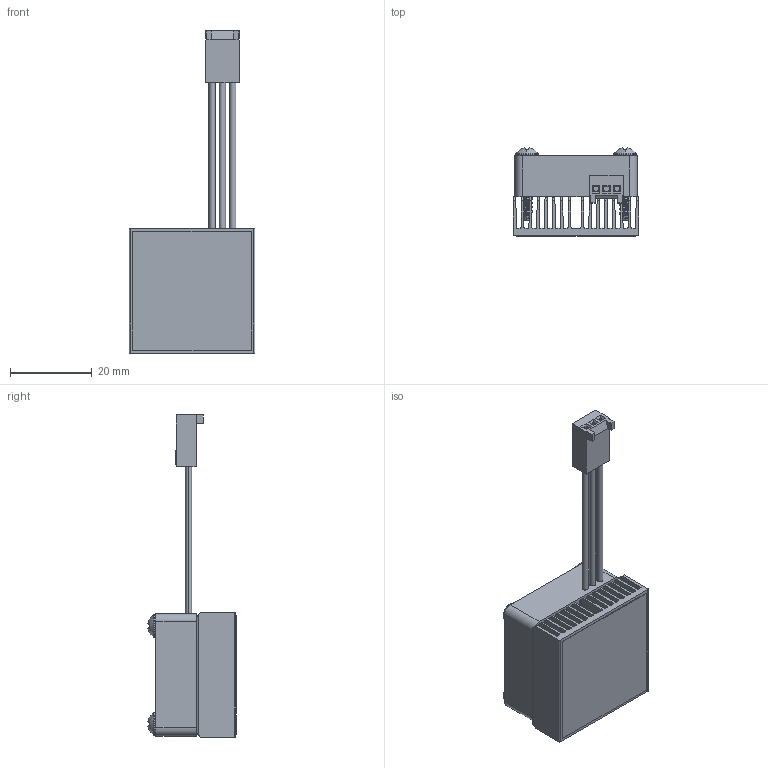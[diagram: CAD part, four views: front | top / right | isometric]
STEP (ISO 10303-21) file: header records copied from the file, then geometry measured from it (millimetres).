
FILE_DESCRIPTION (( 'STEP AP214' ), '1' );
FILE_NAME ('FI31-1.4.STEP', '2023-03-07T19:11:14', ( '' ), ( '' ), 'SwSTEP 2.0', 'SolidWorks 2020', '' );
FILE_SCHEMA (( 'AUTOMOTIVE_DESIGN' ));
Length unit declared in the file: millimetre
Products named in the file (1): FI31-1.4
Bounding box: 30.8 x 21.56 x 78.89 mm (x, y, z)
Volume: 8977.1 mm3; surface area: 17972.9 mm2
Topology: 7 solids, 7 shells, 784 faces, 2249 edges, 1488 vertices
Faces by surface type: cylinder 305, plane 281, bspline 154, cone 44
Entity records: 42031 total; most frequent: CARTESIAN_POINT 15568, ORIENTED_EDGE 4498, DIRECTION 2887, EDGE_CURVE 2249, VERTEX_POINT 1488, VECTOR 1093, LINE 1093, AXIS2_PLACEMENT_3D 897
